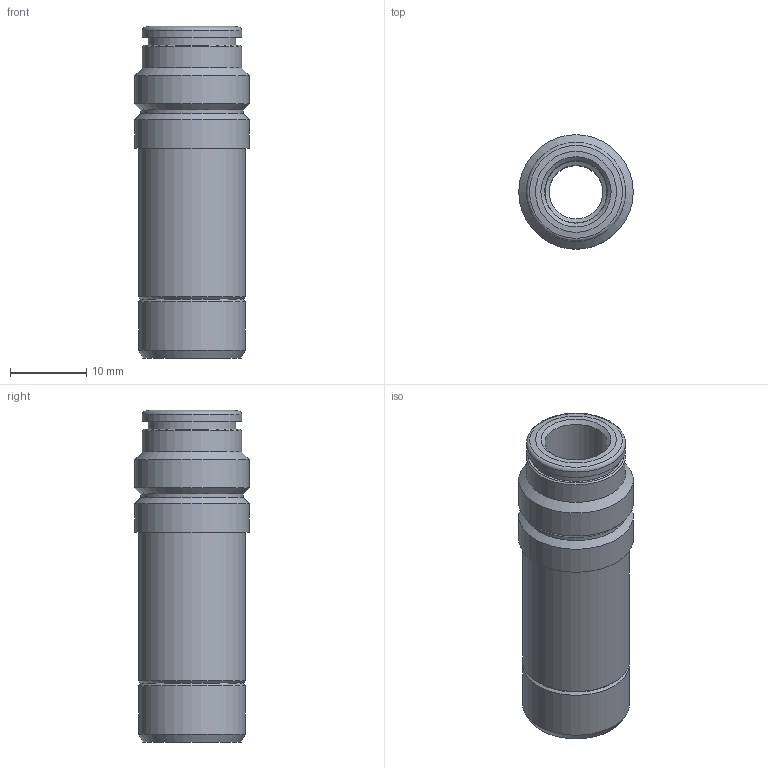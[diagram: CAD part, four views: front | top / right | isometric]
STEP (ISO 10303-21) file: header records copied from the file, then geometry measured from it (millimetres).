
FILE_DESCRIPTION(('Bauteilbeschreibung','HiCAD-Model','HiCAD-STEP-TRANSLATION','Bauteilbeschreibung'),'2;1');
FILE_NAME('B:/ABGLEICH/ZEICHNUNGEN/STEP FÜR INTERNET/STEP/IPSO 08/200814_IPSO_08_14_8.STP','2012-03-15T10:33:06+00:00',('Konstrukteur'),('Konstrukteur Firma GmbH'),' HiCAD neXt 2008, Step 3.1.1401.2J ','HiCAD neXt 2008','confidential');
FILE_SCHEMA(('AUTOMOTIVE_DESIGN { 1 2 10303 214 0 1 1 1 }'));
Length unit declared in the file: millimetre
Products named in the file (3): A00814_IPSO_08_14_8; DR8_1_NEU; R200814_N1
Assembly tree (2 placements, depth 2):
  A00814_IPSO_08_14_8
    DR8_1_NEU
    R200814_N1
Bounding box: 15 x 15 x 43.5 mm (x, y, z)
Volume: 4522.6 mm3; surface area: 3818.4 mm2
Topology: 2 solids, 2 shells, 37 faces, 70 edges, 40 vertices
Faces by surface type: cone 15, cylinder 14, plane 7, torus 1
Full cylindrical faces by diameter (mm): 7 x1, 8.1 x1, 8.2 x1, 10.1 x1, 11 x1, 11.5 x1, 11.6 x1, 13 x2, 13.4 x1, 14 x2, 15 x2
Entity records: 1013 total; most frequent: DIRECTION 156, CARTESIAN_POINT 115, AXIS2_PLACEMENT_3D 78, EDGE_LOOP 74, ORIENTED_EDGE 74, COLOUR_RGB 39, PRESENTATION_STYLE_ASSIGNMENT 39, ADVANCED_FACE 37
